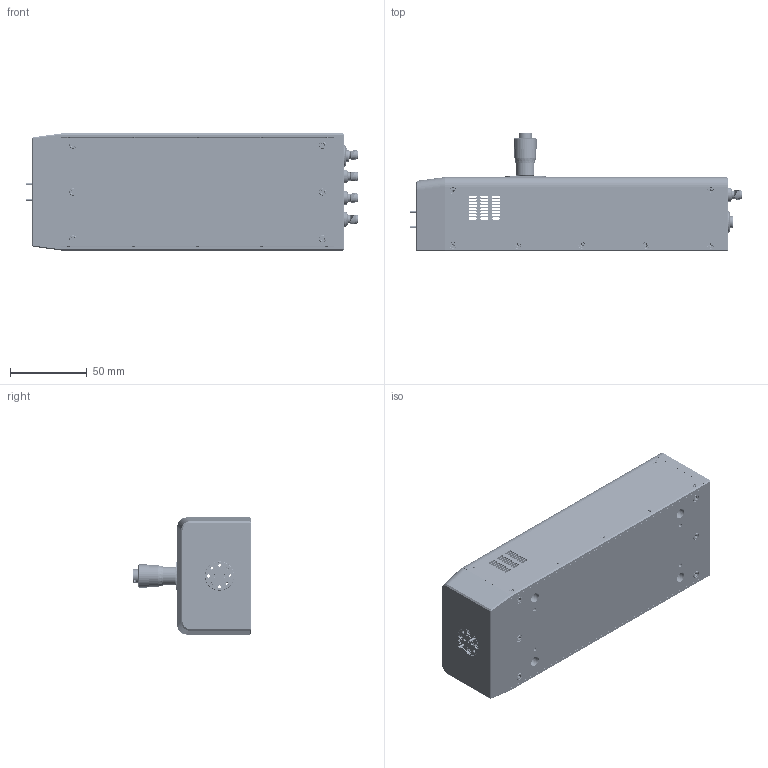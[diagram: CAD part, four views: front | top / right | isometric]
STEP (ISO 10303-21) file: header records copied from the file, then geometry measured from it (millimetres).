
FILE_DESCRIPTION (( 'STEP AP203' ), '1' );
FILE_NAME ('TO-SD-A-M-2-Mountable.STEP', '2025-07-17T16:55:24', ( '' ), ( '' ), 'SwSTEP 2.0', 'SolidWorks 2021', '' );
FILE_SCHEMA (( 'CONFIG_CONTROL_DESIGN' ));
Products named in the file (1): TO-SD-A-M-2-Mountable
Bounding box: 216.16 x 77.23 x 76.2 mm (x, y, z)
Volume: 201872.8 mm3; surface area: 141763 mm2
Topology: 103 solids, 103 shells, 4359 faces, 11484 edges, 7344 vertices
Faces by surface type: cylinder 2002, plane 1251, cone 653, bspline 445, torus 8
Entity records: 249408 total; most frequent: CARTESIAN_POINT 152776, ORIENTED_EDGE 22728, DIRECTION 17150, EDGE_CURVE 11364, VERTEX_POINT 7344, AXIS2_PLACEMENT_3D 6390, EDGE_LOOP 4792, VECTOR 4370
